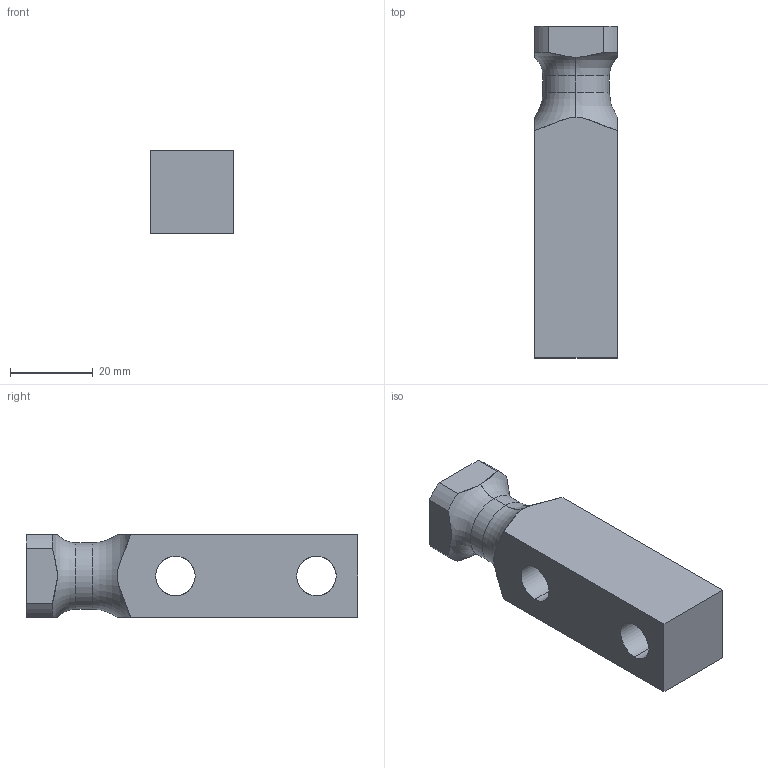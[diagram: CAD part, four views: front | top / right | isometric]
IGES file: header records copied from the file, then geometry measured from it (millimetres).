
Start section: START RECORD GO HERE.
Global section: file name: 395V-04-020-080.igs; native system: DASSAULT SYSTEMES CATIA V5 R20 - www.3ds.com; preprocessor: CATIA Version 5 Release 20 ; author: Utente; organization: NB04-ASUS; date: 20200410.132604; units: millimetre
Bounding box: 20 x 80 x 20 mm (x, y, z)
Surface area: 8022.5 mm2 (no closed solid volume)
Topology: 0 solids, 0 shells, 30 faces, 146 edges, 146 vertices
Faces by surface type: revolution 18, extrusion 12
